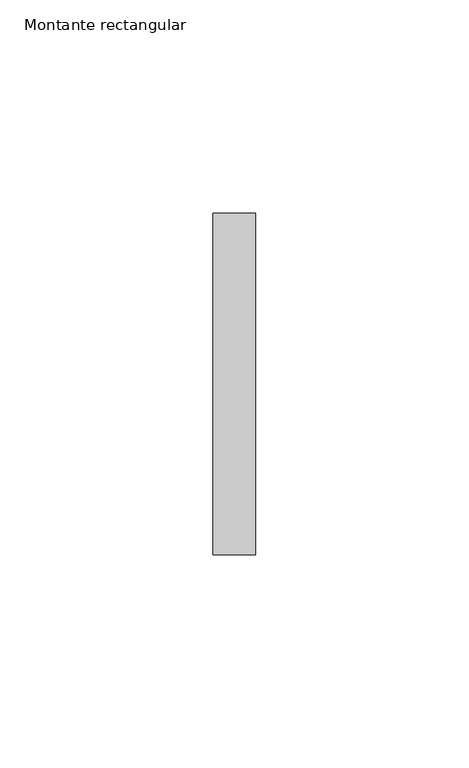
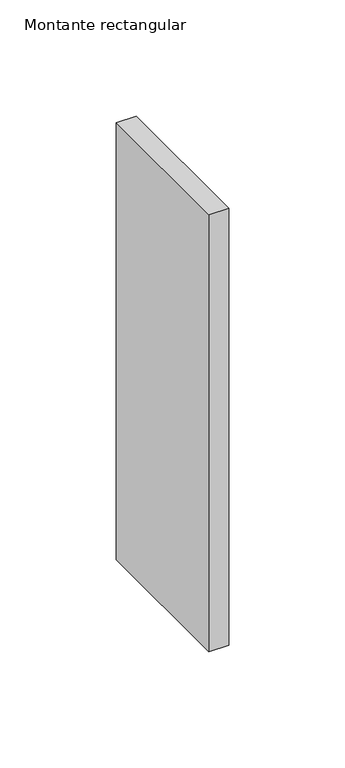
"""IFC4 building model written with IfcOpenShell, lengths in millimetres: member geometry, Montante rectangular : Junta de paves."""

from ifc_helpers import new_model, si_unit, frame, origin, place, context, project, spatial, polyline, outline, extrude, source, transform, mapped, element, save


def montante_rectangular_c9d8d644(model_context):
    return source(origin(), model_context, "Body", "SweptSolid", [
        extrude(outline(polyline([(-10.0, 40.0), (0.0, 40.0), (0.0, -40.0), (-10.0, -40.0), (-10.0, 40.0)])), frame((0.0, 0.0, -230.0), z_axis=(0.0, 0.0, 1.0), x_axis=(1.0, 0.0, 0.0)), (0.0, 0.0, 1.0), 230.0),
    ])


if __name__ == "__main__":
    model = new_model("IFC4")
    model_context = context("Model", 3, world=origin())
    ifc_project = project(units=[si_unit("LENGTHUNIT", "METRE", prefix="MILLI")], contexts=[model_context])
    site = spatial("IfcSite", under=ifc_project)
    building = spatial("IfcBuilding", under=site)
    placement = place(None, origin())
    montante_rectangular_shape = montante_rectangular_c9d8d644(model_context)
    element("IfcMember", 1, ObjectType="Montante rectangular : Junta de paves", at=placement, inside=building, context=model_context, shape_type="MappedRepresentation", body=[
        mapped(montante_rectangular_shape, transform((0.0, 0.0, 0.0), x_axis=(1.0, 0.0, 0.0), y_axis=(0.0, 1.0, 0.0), z_axis=(0.0, 0.0, 1.0))),
    ])
    save(model, "model.ifc")
